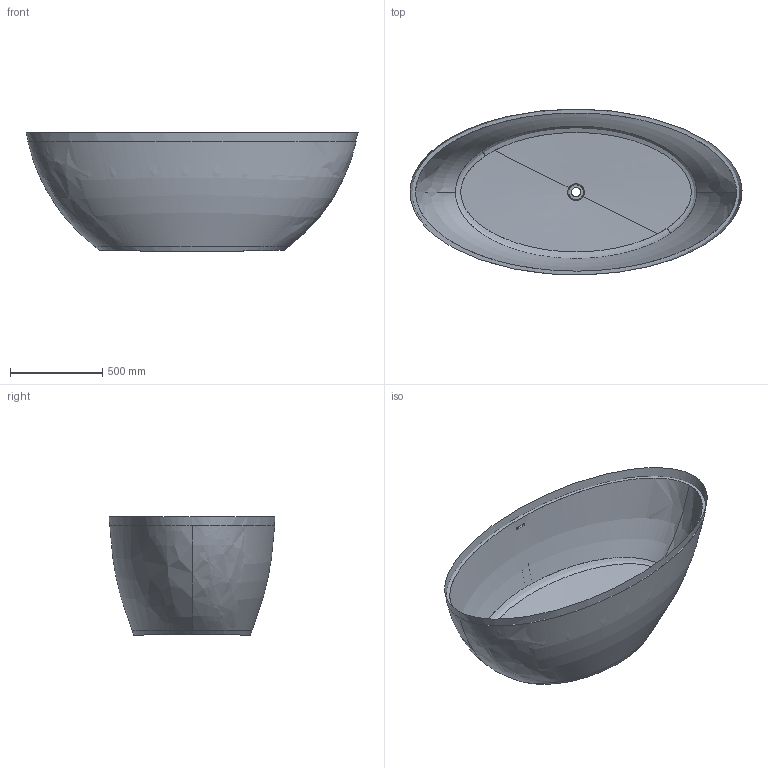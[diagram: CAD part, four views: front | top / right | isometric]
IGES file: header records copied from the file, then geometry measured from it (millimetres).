
Global section: file name: C:\Users\son\Desktop\igs\BW-05-XL.igs; native system: Rhinoceros ( Jul  9 2019 ); preprocessor: Trout Lake IGES 012 Jul  9 2019; date: 200407.134307; units: millimetre
Bounding box: 1799.73 x 899.54 x 644.31 mm (x, y, z)
Surface area: 7069786.3 mm2 (no closed solid volume)
Topology: 0 solids, 0 shells, 63 faces, 3860 edges, 3857 vertices
Faces by surface type: bspline 63
